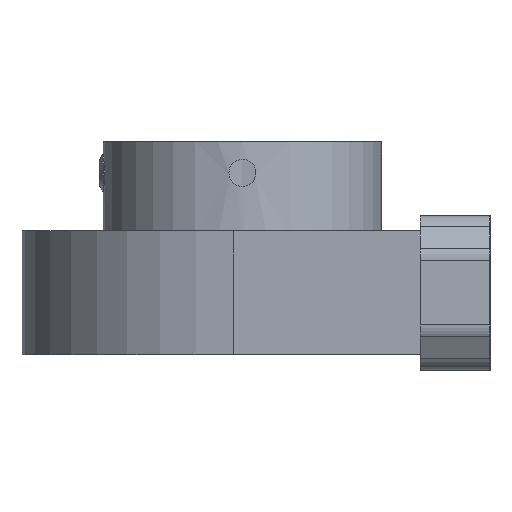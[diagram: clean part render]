
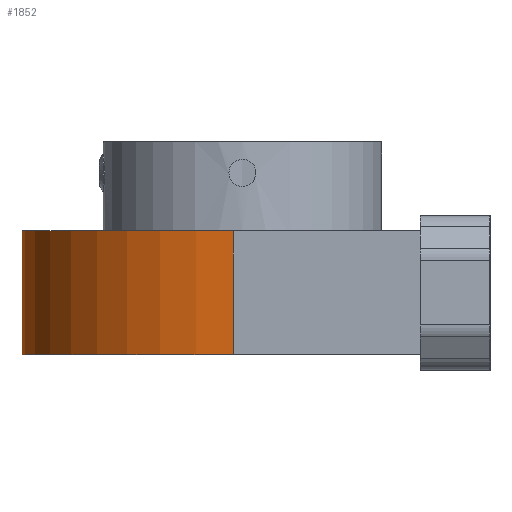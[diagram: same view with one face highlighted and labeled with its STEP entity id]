
A CAD part, left-side view. The second image highlights one B-rep face of the part: STEP entity #1852.
In plain terms, the highlighted cylindrical face has radius 28.5 mm (diameter 57 mm), a partial arc.
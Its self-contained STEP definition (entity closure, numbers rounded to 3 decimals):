
#1412=CARTESIAN_POINT('',(-28.474,1.206,-8.0));
#1413=VERTEX_POINT('',#1412);
#1420=CARTESIAN_POINT('',(28.474,1.206,-8.0));
#1421=VERTEX_POINT('',#1420);
#1422=CARTESIAN_POINT('',(0.0,0.0,-8.0));
#1423=DIRECTION('',(0.0,0.0,1.0));
#1424=DIRECTION('',(0.999,0.042,0.0));
#1425=AXIS2_PLACEMENT_3D('',#1422,#1423,#1424);
#1426=CIRCLE('',#1425,28.5);
#1427=EDGE_CURVE('',#1421,#1413,#1426,.T.);
#1748=CARTESIAN_POINT('',(28.474,1.206,8.0));
#1749=VERTEX_POINT('',#1748);
#1756=CARTESIAN_POINT('',(-28.474,1.206,8.0));
#1757=VERTEX_POINT('',#1756);
#1758=CARTESIAN_POINT('',(0.0,0.0,8.0));
#1759=DIRECTION('',(0.0,0.0,-1.0));
#1760=DIRECTION('',(0.999,0.042,0.0));
#1761=AXIS2_PLACEMENT_3D('',#1758,#1759,#1760);
#1762=CIRCLE('',#1761,28.5);
#1763=EDGE_CURVE('',#1757,#1749,#1762,.T.);
#1814=CARTESIAN_POINT('',(28.474,1.206,-8.0));
#1815=DIRECTION('',(0.0,0.0,1.0));
#1816=VECTOR('',#1815,16.0);
#1817=LINE('',#1814,#1816);
#1818=EDGE_CURVE('',#1421,#1749,#1817,.T.);
#1831=CARTESIAN_POINT('',(-28.474,1.206,-8.0));
#1832=DIRECTION('',(0.0,0.0,1.0));
#1833=VECTOR('',#1832,16.0);
#1834=LINE('',#1831,#1833);
#1835=EDGE_CURVE('',#1413,#1757,#1834,.T.);
#1841=CARTESIAN_POINT('',(0.0,0.0,0.0));
#1842=DIRECTION('',(0.0,0.0,1.0));
#1843=DIRECTION('',(0.999,0.042,0.0));
#1844=AXIS2_PLACEMENT_3D('',#1841,#1842,#1843);
#1845=CYLINDRICAL_SURFACE('',#1844,28.5);
#1846=ORIENTED_EDGE('',*,*,#1763,.T.);
#1847=ORIENTED_EDGE('',*,*,#1818,.F.);
#1848=ORIENTED_EDGE('',*,*,#1427,.T.);
#1849=ORIENTED_EDGE('',*,*,#1835,.T.);
#1850=EDGE_LOOP('',(#1846,#1847,#1848,#1849));
#1851=FACE_OUTER_BOUND('',#1850,.T.);
#1852=ADVANCED_FACE('',(#1851),#1845,.T.);
